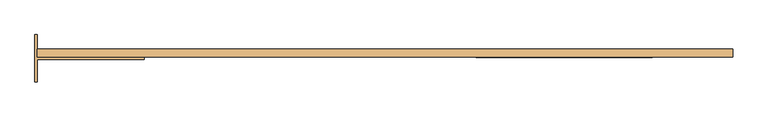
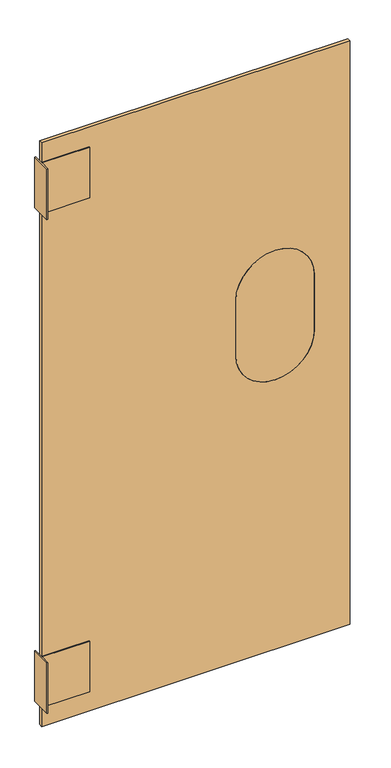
"""IFC4 building model written with IfcOpenShell, lengths in millimetres: door geometry, DO_WPB_Stricker hygienic swing door_BMP : Strick hygienic swing door."""

from ifc_helpers import new_model, si_unit, point, frame, frame_2d, origin, place, context, project, spatial, polyline, circle_curve, trimmed, segment, composite_curve, outline, extrude, source, transform, mapped, element, save


def door_ad785442(model_context):
    return source(origin(), model_context, "Body", "SweptSolid", [
        extrude(outline(polyline([(-654.0, 0.0), (-654.0, 88.0), (-650.0, 88.0), (-650.0, 46.0), (-450.0, 46.0), (-450.0, 42.0), (-650.0, 42.0), (-650.0, 0.0), (-654.0, 0.0)])), frame((0.0, 0.0, 2287.5), z_axis=(0.0, 0.0, 1.0), x_axis=(1.0, 0.0, 0.0)), (0.0, 0.0, 1.0), 225.0),
        extrude(outline(polyline([(-654.0, 0.0), (-654.0, 88.0), (-650.0, 88.0), (-650.0, 46.0), (-450.0, 46.0), (-450.0, 42.0), (-650.0, 42.0), (-650.0, 0.0), (-654.0, 0.0)])), frame((0.0, 0.0, 87.5), z_axis=(0.0, 0.0, 1.0), x_axis=(1.0, 0.0, 0.0)), (0.0, 0.0, 1.0), 225.0),
        extrude(outline(composite_curve([segment(trimmed(circle_curve(frame_2d((1363.0, 337.0)), 163.0), [point((1200.0, 337.0))], [point((1363.0, 500.0))], False, "CARTESIAN"), True, "CONTINUOUS"), segment(polyline([(1363.0, 500.0), (1612.0, 500.0)]), True, "CONTINUOUS"), segment(trimmed(circle_curve(frame_2d((1612.0, 337.0)), 163.0), [point((1612.0, 500.0))], [point((1775.0, 337.0))], False, "CARTESIAN"), True, "CONTINUOUS"), segment(polyline([(1775.0, 337.0), (1775.0, 333.0)]), True, "CONTINUOUS"), segment(trimmed(circle_curve(frame_2d((1612.0, 333.0)), 163.0), [point((1775.0, 333.0))], [point((1612.0, 170.0))], False, "CARTESIAN"), True, "CONTINUOUS"), segment(polyline([(1612.0, 170.0), (1363.0, 170.0)]), True, "CONTINUOUS"), segment(trimmed(circle_curve(frame_2d((1363.0, 333.0)), 163.0), [point((1363.0, 170.0))], [point((1200.0, 333.0))], False, "CARTESIAN"), True, "CONTINUOUS"), segment(polyline([(1200.0, 333.0), (1200.0, 337.0)]), True, "CONTINUOUS")], self_intersect=False)), frame((0.0, 46.0, 0.0), z_axis=(0.0, 1.0, 0.0), x_axis=(0.0, 0.0, 1.0)), (0.0, 0.0, 1.0), 15.0),
        extrude(outline(polyline([(0.0, -650.0), (0.0, 650.0), (2600.0, 650.0), (2600.0, -650.0), (0.0, -650.0)]), holes=[composite_curve([segment(trimmed(circle_curve(frame_2d((1363.0, 337.0)), 163.0), [point((1363.0, 500.0))], [point((1200.0, 337.0))], True, "CARTESIAN"), True, "CONTINUOUS"), segment(polyline([(1200.0, 337.0), (1200.0, 333.0)]), True, "CONTINUOUS"), segment(trimmed(circle_curve(frame_2d((1363.0, 333.0)), 163.0), [point((1200.0, 333.0))], [point((1363.0, 170.0))], True, "CARTESIAN"), True, "CONTINUOUS"), segment(polyline([(1363.0, 170.0), (1612.0, 170.0)]), True, "CONTINUOUS"), segment(trimmed(circle_curve(frame_2d((1612.0, 333.0)), 163.0), [point((1612.0, 170.0))], [point((1775.0, 333.0))], True, "CARTESIAN"), True, "CONTINUOUS"), segment(polyline([(1775.0, 333.0), (1775.0, 337.0)]), True, "CONTINUOUS"), segment(trimmed(circle_curve(frame_2d((1612.0, 337.0)), 163.0), [point((1775.0, 337.0))], [point((1612.0, 500.0))], True, "CARTESIAN"), True, "CONTINUOUS"), segment(polyline([(1612.0, 500.0), (1363.0, 500.0)]), True, "CONTINUOUS")], self_intersect=False)]), frame((0.0, 46.0, 0.0), z_axis=(0.0, 1.0, 0.0), x_axis=(0.0, 0.0, 1.0)), (0.0, 0.0, 1.0), 15.0),
    ])


if __name__ == "__main__":
    model = new_model("IFC4")
    model_context = context("Model", 3, world=origin())
    ifc_project = project(units=[si_unit("LENGTHUNIT", "METRE", prefix="MILLI")], contexts=[model_context])
    site = spatial("IfcSite", under=ifc_project)
    building = spatial("IfcBuilding", under=site)
    placement = place(None, origin())
    door_shape = door_ad785442(model_context)
    element("IfcDoor", 1, ObjectType="DO_WPB_Stricker hygienic swing door_BMP : Strick hygienic swing door", at=placement, inside=building, context=model_context, shape_type="MappedRepresentation", body=[
        mapped(door_shape, transform((0.0, 0.0, 0.0), x_axis=(1.0, 0.0, 0.0), y_axis=(0.0, 1.0, 0.0), z_axis=(0.0, 0.0, 1.0))),
    ])
    save(model, "model.ifc")
